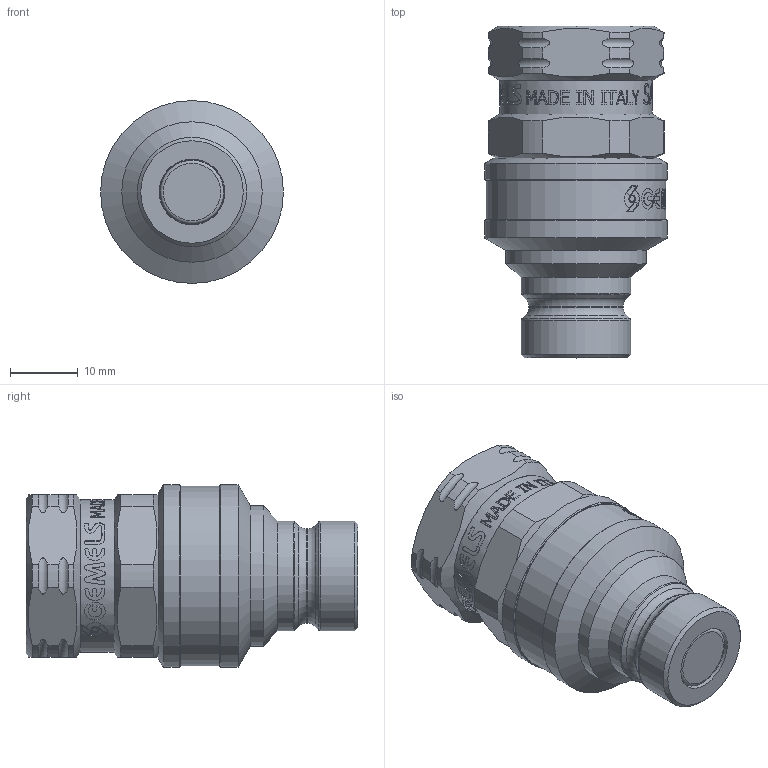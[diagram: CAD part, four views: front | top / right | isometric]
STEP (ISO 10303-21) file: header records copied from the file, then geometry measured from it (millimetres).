
FILE_DESCRIPTION(/* description */ (''),/* implementation_level */ '2;1');
FILE_NAME(/* name */ 'NC05S010001.stp',/* time_stamp */ '2024-11-19T11:18:08+01:00',/* author */ ('thomas.belotti'),/* organization */ (''),/* preprocessor_version */ 'ST-DEVELOPER v20',/* originating_system */ 'Autodesk Inventor 2024',/* authorisation */ '');
FILE_SCHEMA (('AUTOMOTIVE_DESIGN { 1 0 10303 214 3 1 1 }'));
Length unit declared in the file: millimetre
Products named in the file (1): Parte14
Bounding box: 27 x 49 x 27 mm (x, y, z)
Volume: 17933.5 mm3; surface area: 5335.7 mm2
Topology: 1 solids, 2 shells, 1134 faces, 3234 edges, 2147 vertices
Faces by surface type: bspline 750, plane 258, cylinder 91, torus 19, cone 16
Full cylindrical faces by diameter (mm): 9.7 x1, 12.9 x1, 13 x1, 13.95 x1, 16.15 x2, 20.75 x1, 22 x1, 22.3 x1, 22.5 x1, 26.5 x1, 27 x2
Entity records: 49925 total; most frequent: CARTESIAN_POINT 24184, ORIENTED_EDGE 6468, EDGE_CURVE 3234, DIRECTION 2802, VERTEX_POINT 2147, B_SPLINE_CURVE_WITH_KNOTS 1572, LINE 1244, VECTOR 1244
